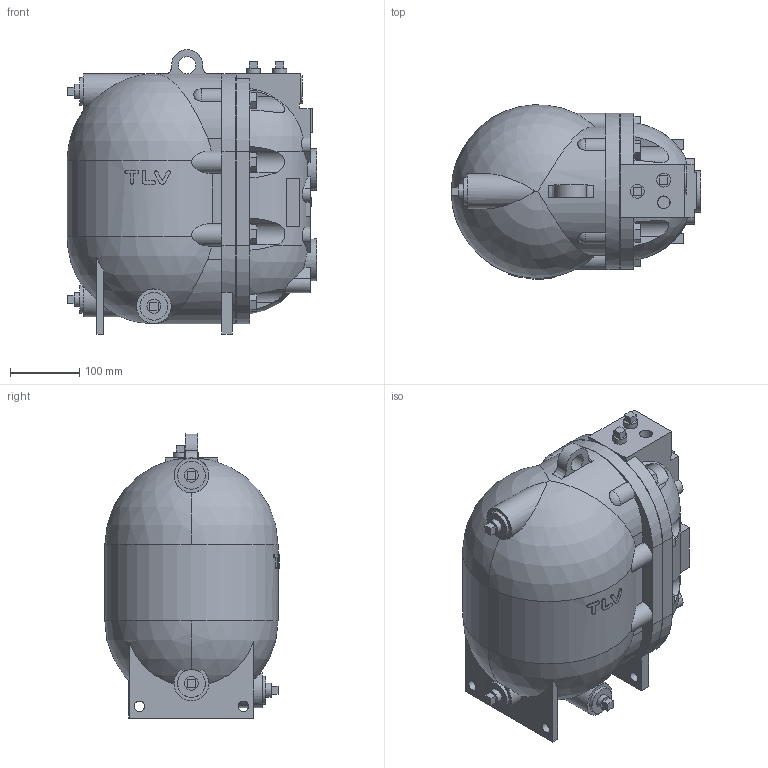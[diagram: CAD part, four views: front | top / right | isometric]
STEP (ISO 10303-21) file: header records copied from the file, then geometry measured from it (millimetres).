
FILE_DESCRIPTION(/* description */ (''),/* implementation_level */ '2;1');
FILE_NAME(/* name */ 'H:\nakaot\Inventor\COS\GPGT\gp10l-025-e0016-02.stp',/* time_stamp */ '2019-10-10T11:34:58+09:00',/* author */ ('nakaot'),/* organization */ (''),/* preprocessor_version */ 'ST-DEVELOPER v18',/* originating_system */ 'Autodesk Inventor 2020',/* authorisation */ '');
FILE_SCHEMA (('AUTOMOTIVE_DESIGN { 1 0 10303 214 3 1 1 }'));
Length unit declared in the file: millimetre
Products named in the file (1): gp10l-025-e0016-02
Bounding box: 360 x 251.34 x 410.34 mm (x, y, z)
Volume: 20365905.9 mm3; surface area: 631522.6 mm2
Topology: 1 solids, 1 shells, 334 faces, 896 edges, 594 vertices
Faces by surface type: plane 223, cylinder 87, cone 12, sphere 10, bspline 2
Full cylindrical faces by diameter (mm): 10.106 x8, 15 x4, 17.5 x2, 20 x5, 25 x1, 29 x2, 40 x4, 50 x2, 60 x2, 116.11 x1
Entity records: 11561 total; most frequent: CARTESIAN_POINT 3077, ORIENTED_EDGE 1766, DIRECTION 1733, EDGE_CURVE 883, AXIS2_PLACEMENT_3D 595, VERTEX_POINT 594, LINE 543, VECTOR 543
